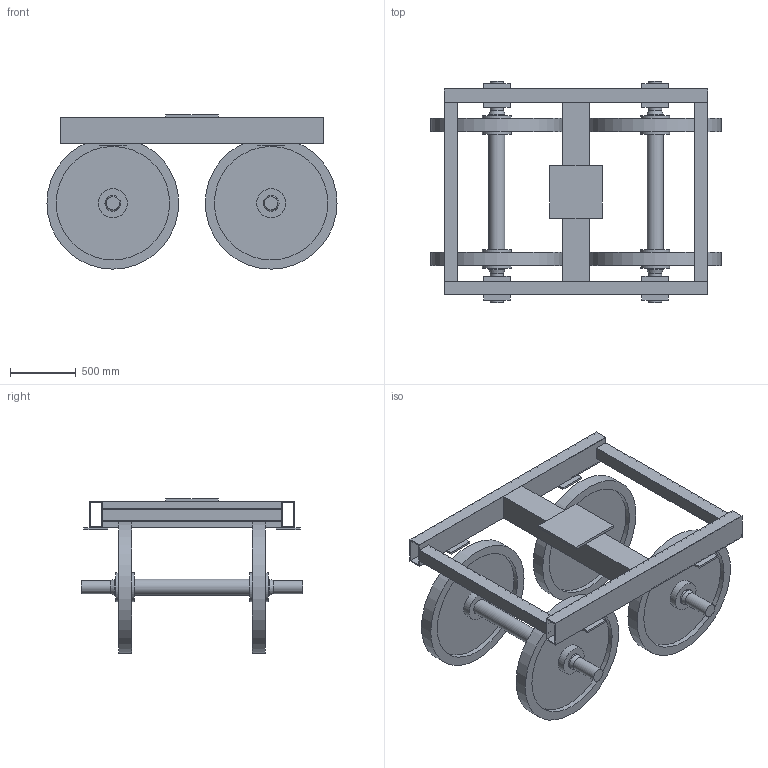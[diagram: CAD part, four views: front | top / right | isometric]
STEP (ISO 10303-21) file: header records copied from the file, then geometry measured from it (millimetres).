
FILE_DESCRIPTION(('Open CASCADE Model'),'2;1');
FILE_NAME('Open CASCADE Shape Model','2026-10-19T10:06:07',('Author'),( 'Open CASCADE'),'Open CASCADE STEP processor 7.8','Open CASCADE 7.8' ,'Unknown');
FILE_SCHEMA(('AUTOMOTIVE_DESIGN { 1 0 10303 214 1 1 1 1 }'));
Length unit declared in the file: millimetre
Products named in the file (17): DT2_powered_truck_proposal; DT2-F01; DT2-F02; DT2-F03; DT2-F04; DT2-F05; DT2-P01; DT2-P02; DT2-P03; DT2-P04; DT2-P05; DT2-A01; DT2-W01; DT2-W02; DT2-A02; DT2-W03; DT2-W04
Assembly tree (16 placements, depth 2):
  DT2_powered_truck_proposal
    DT2-F01
    DT2-F02
    DT2-F03
    DT2-F04
    DT2-F05
    DT2-P01
    DT2-P02
    DT2-P03
    DT2-P04
    DT2-P05
    DT2-A01
    DT2-W01
    DT2-W02
    DT2-A02
    DT2-W03
    DT2-W04
Bounding box: 2200 x 1680 x 1170 mm (x, y, z)
Volume: 227673469.5 mm3; surface area: 19374078.9 mm2
Topology: 16 solids, 16 shells, 142 faces, 274 edges, 180 vertices
Faces by surface type: plane 108, cylinder 30, cone 4
Full cylindrical faces by diameter (mm): 100 x4, 120 x6, 220 x8, 860 x8, 1000 x4
Entity records: 7483 total; most frequent: CARTESIAN_POINT 1249, DIRECTION 1112, LINE 622, VECTOR 622, ORIENTED_EDGE 548, PCURVE 548, DEFINITIONAL_REPRESENTATION 548, EDGE_CURVE 274
